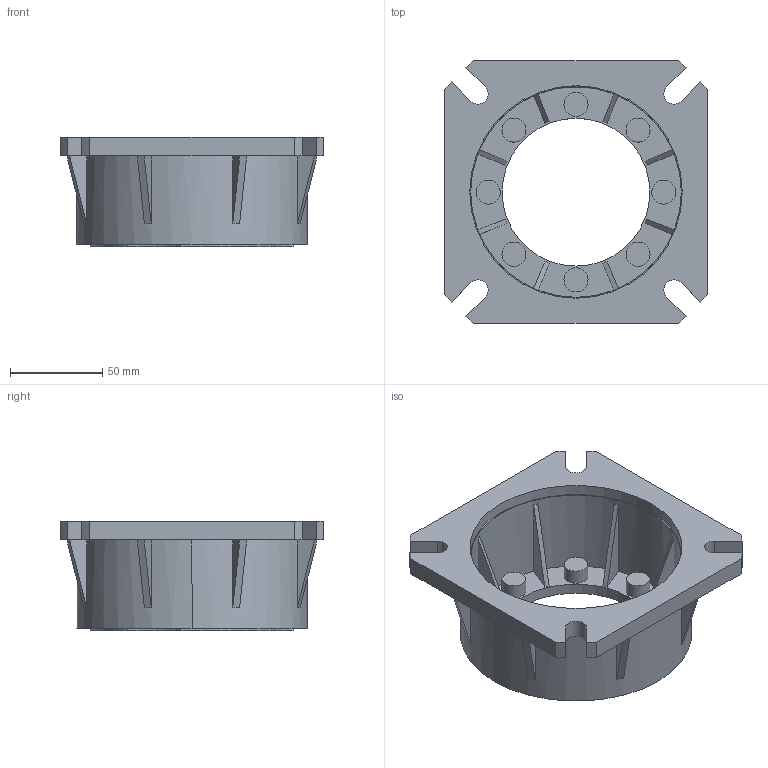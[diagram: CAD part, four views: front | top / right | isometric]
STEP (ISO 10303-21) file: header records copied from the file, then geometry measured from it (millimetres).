
FILE_DESCRIPTION(/* description */ (''),/* implementation_level */ '2;1');
FILE_NAME(/* name */ '2_FLANGIA (CAMPANA) LATERALE FB BA52',/* time_stamp */ '2025-10-22T11:43:20+02:00',/* author */ (''),/* organization */ (''),/* preprocessor_version */ 'ST-DEVELOPER v19.2',/* originating_system */ 'Rhino 8.23',/* authorisation */ '');
FILE_SCHEMA (('CONFIG_CONTROL_DESIGN'));
Length unit declared in the file: millimetre
Products named in the file (2): Document; BFUA52FB
Bounding box: 142 x 142 x 59 mm (x, y, z)
Volume: 235207.8 mm3; surface area: 84786.1 mm2
Topology: 1 solids, 1 shells, 126 faces, 336 edges, 224 vertices
Faces by surface type: plane 66, cylinder 52, bspline 8
Entity records: 5411 total; most frequent: CARTESIAN_POINT 1354, ORIENTED_EDGE 672, DIRECTION 398, EDGE_CURVE 336, AXIS2_PLACEMENT_3D 258, VERTEX_POINT 224, B_SPLINE_CURVE_WITH_KNOTS 192, EDGE_LOOP 140
